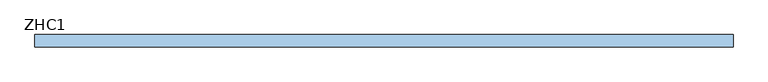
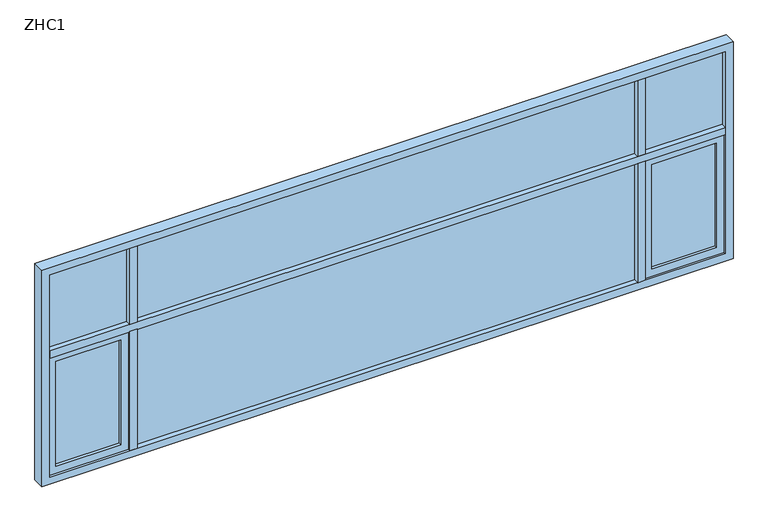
"""IFC4 building model written with IfcOpenShell, lengths in millimetres: window geometry, 组合窗 - 双层三列(平开+固定+平开) - 上部三扇固定 : ZHC1."""

from ifc_helpers import new_model, si_unit, frame, origin, place, context, project, spatial, polyline, outline, extrude, source, transform, mapped, element, save


def zhc1_c9cb109f(model_context):
    return source(origin(), model_context, "Body", "SweptSolid", [
        extrude(outline(polyline([(-1737.5, 10.0), (-2162.5, 10.0), (-2162.5, 20.0), (-1737.5, 20.0), (-1737.5, 10.0)])), frame((0.0, 0.0, 1000.0), z_axis=(0.0, 0.0, 1.0), x_axis=(1.0, 0.0, 0.0)), (0.0, 0.0, 1.0), 725.0),
        extrude(outline(polyline([(1775.0, -1687.5), (1775.0, -2212.5), (950.0, -2212.5), (950.0, -1687.5), (1775.0, -1687.5)]), holes=[polyline([(1000.0, -1737.5), (1000.0, -2162.5), (1725.0, -2162.5), (1725.0, -1737.5), (1000.0, -1737.5)])]), frame((0.0, -10.0, 0.0), z_axis=(0.0, 1.0, 0.0), x_axis=(0.0, 0.0, 1.0)), (0.0, 0.0, 1.0), 50.0),
        extrude(outline(polyline([(1637.5, 10.0), (-1637.5, 10.0), (-1637.5, 20.0), (1637.5, 20.0), (1637.5, 10.0)])), frame((0.0, 0.0, 950.0), z_axis=(0.0, 0.0, 1.0), x_axis=(1.0, 0.0, 0.0)), (0.0, 0.0, 1.0), 825.0),
        extrude(outline(polyline([(1637.5, 10.0), (-1637.5, 10.0), (-1637.5, 20.0), (1637.5, 20.0), (1637.5, 10.0)])), frame((0.0, 0.0, 1825.0), z_axis=(0.0, 0.0, 1.0), x_axis=(1.0, 0.0, 0.0)), (0.0, 0.0, 1.0), 525.0),
        extrude(outline(polyline([(-1687.5, 10.0), (-2212.5, 10.0), (-2212.5, 20.0), (-1687.5, 20.0), (-1687.5, 10.0)])), frame((0.0, 0.0, 1825.0), z_axis=(0.0, 0.0, 1.0), x_axis=(1.0, 0.0, 0.0)), (0.0, 0.0, 1.0), 525.0),
        extrude(outline(polyline([(2162.5, 10.0), (1737.5, 10.0), (1737.5, 20.0), (2162.5, 20.0), (2162.5, 10.0)])), frame((0.0, 0.0, 1000.0), z_axis=(0.0, 0.0, 1.0), x_axis=(1.0, 0.0, 0.0)), (0.0, 0.0, 1.0), 725.0),
        extrude(outline(polyline([(1775.0, 2212.5), (1775.0, 1687.5), (950.0, 1687.5), (950.0, 2212.5), (1775.0, 2212.5)]), holes=[polyline([(1000.0, 2162.5), (1000.0, 1737.5), (1725.0, 1737.5), (1725.0, 2162.5), (1000.0, 2162.5)])]), frame((0.0, -10.0, 0.0), z_axis=(0.0, 1.0, 0.0), x_axis=(0.0, 0.0, 1.0)), (0.0, 0.0, 1.0), 50.0),
        extrude(outline(polyline([(2212.5, 10.0), (1687.5, 10.0), (1687.5, 20.0), (2212.5, 20.0), (2212.5, 10.0)])), frame((0.0, 0.0, 1825.0), z_axis=(0.0, 0.0, 1.0), x_axis=(1.0, 0.0, 0.0)), (0.0, 0.0, 1.0), 525.0),
        extrude(outline(polyline([(1637.5, 55.0), (1687.5, 55.0), (1687.5, -25.0), (1637.5, -25.0), (1637.5, 55.0)])), frame((0.0, 0.0, 1825.0), z_axis=(0.0, 0.0, 1.0), x_axis=(1.0, 0.0, 0.0)), (0.0, 0.0, 1.0), 525.0),
        extrude(outline(polyline([(-1687.5, 55.0), (-1637.5, 55.0), (-1637.5, -25.0), (-1687.5, -25.0), (-1687.5, 55.0)])), frame((0.0, 0.0, 1825.0), z_axis=(0.0, 0.0, 1.0), x_axis=(1.0, 0.0, 0.0)), (0.0, 0.0, 1.0), 525.0),
        extrude(outline(polyline([(1637.5, 55.0), (1687.5, 55.0), (1687.5, -25.0), (1637.5, -25.0), (1637.5, 55.0)])), frame((0.0, 0.0, 950.0), z_axis=(0.0, 0.0, 1.0), x_axis=(1.0, 0.0, 0.0)), (0.0, 0.0, 1.0), 825.0),
        extrude(outline(polyline([(-1687.5, 55.0), (-1637.5, 55.0), (-1637.5, -25.0), (-1687.5, -25.0), (-1687.5, 55.0)])), frame((0.0, 0.0, 950.0), z_axis=(0.0, 0.0, 1.0), x_axis=(1.0, 0.0, 0.0)), (0.0, 0.0, 1.0), 825.0),
        extrude(outline(polyline([(-2212.5, 55.0), (2212.5, 55.0), (2212.5, -25.0), (-2212.5, -25.0), (-2212.5, 55.0)])), frame((0.0, 0.0, 1775.0), z_axis=(0.0, 0.0, 1.0), x_axis=(1.0, 0.0, 0.0)), (0.0, 0.0, 1.0), 50.0),
        extrude(outline(polyline([(2400.0, -2262.5), (900.0, -2262.5), (900.0, 2262.5), (2400.0, 2262.5), (2400.0, -2262.5)]), holes=[polyline([(2350.0, 2212.5), (950.0, 2212.5), (950.0, -2212.5), (2350.0, -2212.5), (2350.0, 2212.5)])]), frame((0.0, -25.0, 0.0), z_axis=(0.0, 1.0, 0.0), x_axis=(0.0, 0.0, 1.0)), (0.0, 0.0, 1.0), 80.0),
    ])


if __name__ == "__main__":
    model = new_model("IFC4")
    model_context = context("Model", 3, world=origin())
    ifc_project = project(units=[si_unit("LENGTHUNIT", "METRE", prefix="MILLI")], contexts=[model_context])
    site = spatial("IfcSite", under=ifc_project)
    building = spatial("IfcBuilding", under=site)
    placement = place(None, origin())
    zhc1_shape = zhc1_c9cb109f(model_context)
    element("IfcWindow", 1, ObjectType="组合窗 - 双层三列(平开+固定+平开) - 上部三扇固定 : ZHC1", at=placement, inside=building, context=model_context, shape_type="MappedRepresentation", body=[
        mapped(zhc1_shape, transform((0.0, 0.0, 0.0), x_axis=(1.0, 0.0, 0.0), y_axis=(0.0, 1.0, 0.0), z_axis=(0.0, 0.0, 1.0))),
    ])
    save(model, "model.ifc")
